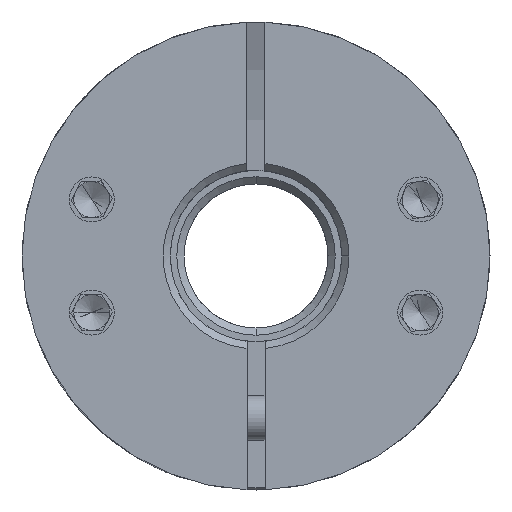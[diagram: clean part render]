
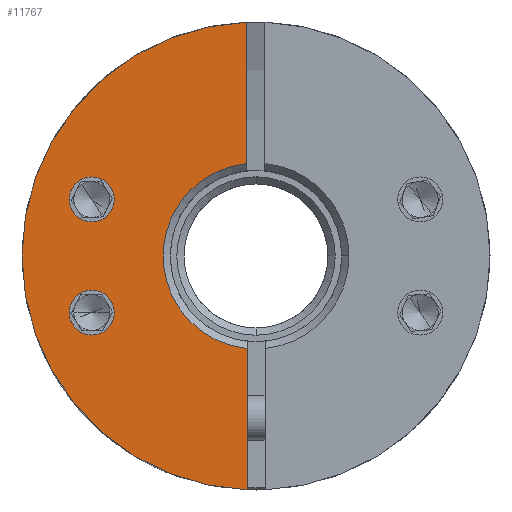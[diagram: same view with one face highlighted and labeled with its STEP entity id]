
A CAD part, front view. The second image highlights one B-rep face of the part: STEP entity #11767.
In plain terms, the highlighted planar face has unit normal (0, -1, 0).
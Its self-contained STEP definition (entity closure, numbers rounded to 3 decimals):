
#776 = CIRCLE ( 'NONE', #21776, 1.25 ) ;
#1064 = VERTEX_POINT ( 'NONE', #1417 ) ;
#1125 = AXIS2_PLACEMENT_3D ( 'NONE', #21377, #3636, #1598 ) ;
#1417 = CARTESIAN_POINT ( 'NONE',  ( -6.119, -26.289, 3.142 ) ) ;
#1598 = DIRECTION ( 'NONE',  ( 1., 0., 0. ) ) ;
#1652 = DIRECTION ( 'NONE',  ( 1., 0., 0. ) ) ;
#1752 = CARTESIAN_POINT ( 'NONE',  ( 1.755, -26.289, 0. ) ) ;
#1829 = DIRECTION ( 'NONE',  ( 0., -1., 0. ) ) ;
#1904 = CARTESIAN_POINT ( 'NONE',  ( 1.255, -26.289, 5.138 ) ) ;
#2312 = ORIENTED_EDGE ( 'NONE', *, *, #10003, .T. ) ;
#2552 = ORIENTED_EDGE ( 'NONE', *, *, #10581, .F. ) ;
#2581 = CARTESIAN_POINT ( 'NONE',  ( -7.369, -26.289, -3.142 ) ) ;
#3195 = EDGE_CURVE ( 'NONE', #17669, #20481, #6423, .T. ) ;
#3307 = CARTESIAN_POINT ( 'NONE',  ( -8.619, -26.289, -3.142 ) ) ;
#3315 = PLANE ( 'NONE',  #21524 ) ;
#3636 = DIRECTION ( 'NONE',  ( 0., -1., 0. ) ) ;
#4089 = VERTEX_POINT ( 'NONE', #12934 ) ;
#4263 = CIRCLE ( 'NONE', #13339, 1.25 ) ;
#4410 = DIRECTION ( 'NONE',  ( 1., 0., 0. ) ) ;
#4558 = ORIENTED_EDGE ( 'NONE', *, *, #9638, .T. ) ;
#4695 = VERTEX_POINT ( 'NONE', #9690 ) ;
#4894 = CARTESIAN_POINT ( 'NONE',  ( -7.369, -26.289, -3.142 ) ) ;
#5090 = DIRECTION ( 'NONE',  ( 1., 0., 0. ) ) ;
#5317 = CARTESIAN_POINT ( 'NONE',  ( -7.369, -26.289, 3.142 ) ) ;
#5879 = EDGE_LOOP ( 'NONE', ( #21444, #19116, #2552, #7434, #17162 ) ) ;
#5897 = DIRECTION ( 'NONE',  ( 0., 1., 0. ) ) ;
#6380 = EDGE_CURVE ( 'NONE', #9194, #16683, #7955, .T. ) ;
#6423 = CIRCLE ( 'NONE', #22691, 1.25 ) ;
#6780 = ORIENTED_EDGE ( 'NONE', *, *, #3195, .T. ) ;
#6834 = DIRECTION ( 'NONE',  ( 0., 1., 0. ) ) ;
#7079 = LINE ( 'NONE', #15327, #7343 ) ;
#7146 = DIRECTION ( 'NONE',  ( 0., -1., 0. ) ) ;
#7236 = EDGE_CURVE ( 'NONE', #11286, #4695, #9886, .T. ) ;
#7343 = VECTOR ( 'NONE', #17033, 1000. ) ;
#7434 = ORIENTED_EDGE ( 'NONE', *, *, #7236, .T. ) ;
#7955 = CIRCLE ( 'NONE', #8123, 5.162 ) ;
#8123 = AXIS2_PLACEMENT_3D ( 'NONE', #10413, #22993, #1652 ) ;
#8316 = DIRECTION ( 'NONE',  ( 1., 0., 0. ) ) ;
#8645 = CARTESIAN_POINT ( 'NONE',  ( -7.369, -26.289, 3.142 ) ) ;
#8681 = FACE_OUTER_BOUND ( 'NONE', #5879, .T. ) ;
#8907 = DIRECTION ( 'NONE',  ( 0., 1., 0. ) ) ;
#9194 = VERTEX_POINT ( 'NONE', #11328 ) ;
#9201 = AXIS2_PLACEMENT_3D ( 'NONE', #1752, #1829, #17902 ) ;
#9638 = EDGE_CURVE ( 'NONE', #1064, #4089, #9839, .T. ) ;
#9690 = CARTESIAN_POINT ( 'NONE',  ( -11.245, -26.289, 0. ) ) ;
#9776 = FACE_BOUND ( 'NONE', #18322, .T. ) ;
#9839 = CIRCLE ( 'NONE', #10929, 1.25 ) ;
#9886 = CIRCLE ( 'NONE', #9201, 13. ) ;
#10003 = EDGE_CURVE ( 'NONE', #20481, #17669, #4263, .T. ) ;
#10413 = CARTESIAN_POINT ( 'NONE',  ( 1.755, -26.289, 0. ) ) ;
#10441 = DIRECTION ( 'NONE',  ( 1., 0., 0. ) ) ;
#10581 = EDGE_CURVE ( 'NONE', #11286, #16683, #7079, .T. ) ;
#10929 = AXIS2_PLACEMENT_3D ( 'NONE', #8645, #6834, #19303 ) ;
#11286 = VERTEX_POINT ( 'NONE', #21329 ) ;
#11328 = CARTESIAN_POINT ( 'NONE',  ( 1.255, -26.289, -5.138 ) ) ;
#11500 = CIRCLE ( 'NONE', #1125, 13. ) ;
#11767 = ADVANCED_FACE ( 'NONE', ( #8681, #19829, #9776 ), #3315, .T. ) ;
#12226 = EDGE_LOOP ( 'NONE', ( #16438, #4558 ) ) ;
#12934 = CARTESIAN_POINT ( 'NONE',  ( -8.619, -26.289, 3.142 ) ) ;
#13040 = EDGE_CURVE ( 'NONE', #9194, #16817, #20863, .T. ) ;
#13339 = AXIS2_PLACEMENT_3D ( 'NONE', #2581, #5897, #4410 ) ;
#14742 = CARTESIAN_POINT ( 'NONE',  ( 1.255, -26.289, 5. ) ) ;
#15327 = CARTESIAN_POINT ( 'NONE',  ( 1.255, -26.289, 5. ) ) ;
#15615 = VECTOR ( 'NONE', #20170, 1000. ) ;
#15844 = EDGE_CURVE ( 'NONE', #4695, #16817, #11500, .T. ) ;
#16438 = ORIENTED_EDGE ( 'NONE', *, *, #17578, .T. ) ;
#16683 = VERTEX_POINT ( 'NONE', #1904 ) ;
#16817 = VERTEX_POINT ( 'NONE', #18440 ) ;
#17033 = DIRECTION ( 'NONE',  ( 0., 0., -1. ) ) ;
#17162 = ORIENTED_EDGE ( 'NONE', *, *, #15844, .T. ) ;
#17578 = EDGE_CURVE ( 'NONE', #4089, #1064, #776, .T. ) ;
#17669 = VERTEX_POINT ( 'NONE', #19879 ) ;
#17902 = DIRECTION ( 'NONE',  ( 1., 0., 0. ) ) ;
#18322 = EDGE_LOOP ( 'NONE', ( #2312, #6780 ) ) ;
#18440 = CARTESIAN_POINT ( 'NONE',  ( 1.255, -26.289, -12.99 ) ) ;
#19069 = DIRECTION ( 'NONE',  ( 0., 1., 0. ) ) ;
#19116 = ORIENTED_EDGE ( 'NONE', *, *, #6380, .T. ) ;
#19303 = DIRECTION ( 'NONE',  ( 1., 0., 0. ) ) ;
#19829 = FACE_BOUND ( 'NONE', #12226, .T. ) ;
#19879 = CARTESIAN_POINT ( 'NONE',  ( -6.119, -26.289, -3.142 ) ) ;
#20170 = DIRECTION ( 'NONE',  ( 0., 0., -1. ) ) ;
#20481 = VERTEX_POINT ( 'NONE', #3307 ) ;
#20863 = LINE ( 'NONE', #14742, #15615 ) ;
#21329 = CARTESIAN_POINT ( 'NONE',  ( 1.255, -26.289, 12.99 ) ) ;
#21377 = CARTESIAN_POINT ( 'NONE',  ( 1.755, -26.289, 0. ) ) ;
#21444 = ORIENTED_EDGE ( 'NONE', *, *, #13040, .F. ) ;
#21524 = AXIS2_PLACEMENT_3D ( 'NONE', #23090, #7146, #10441 ) ;
#21776 = AXIS2_PLACEMENT_3D ( 'NONE', #5317, #8907, #5090 ) ;
#22691 = AXIS2_PLACEMENT_3D ( 'NONE', #4894, #19069, #8316 ) ;
#22993 = DIRECTION ( 'NONE',  ( 0., 1., 0. ) ) ;
#23090 = CARTESIAN_POINT ( 'NONE',  ( 1.755, -26.289, 0. ) ) ;
